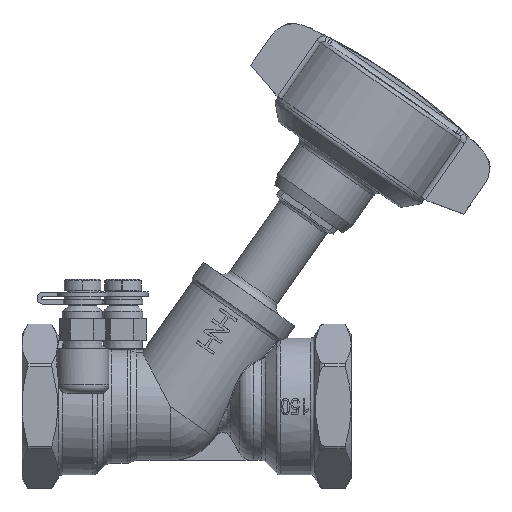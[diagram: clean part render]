
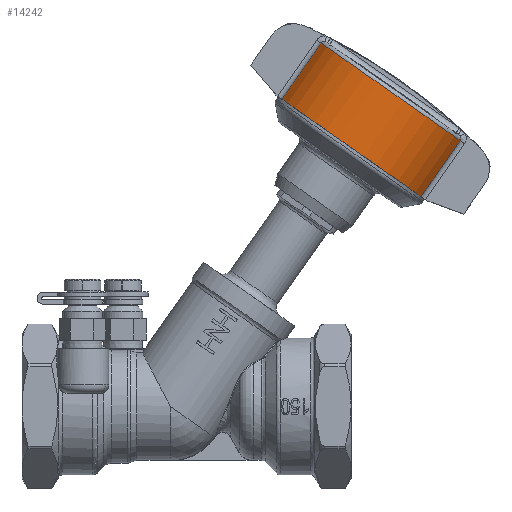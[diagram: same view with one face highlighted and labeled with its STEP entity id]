
A CAD part, top view. The second image highlights one B-rep face of the part: STEP entity #14242.
In plain terms, the highlighted cylindrical face has radius 31.925 mm (diameter 63.85 mm), a partial arc.
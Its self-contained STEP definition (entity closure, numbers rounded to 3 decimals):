
#13101=CARTESIAN_POINT('',(37.834,92.092,12.328));
#13102=VERTEX_POINT('',#13101);
#13110=CARTESIAN_POINT('',(24.24,72.678,12.328));
#13111=VERTEX_POINT('',#13110);
#13112=CARTESIAN_POINT('',(37.834,92.092,12.328));
#13113=DIRECTION('',(-0.574,-0.819,0.));
#13114=VECTOR('',#13113,23.7);
#13115=LINE('',#13112,#13114);
#13116=EDGE_CURVE('',#13102,#13111,#13115,.T.);
#13511=CARTESIAN_POINT('',(-10.412,125.874,12.328));
#13512=VERTEX_POINT('',#13511);
#13542=CARTESIAN_POINT('',(-24.006,106.46,12.328));
#13543=VERTEX_POINT('',#13542);
#13551=CARTESIAN_POINT('',(-24.006,106.46,12.328));
#13552=DIRECTION('',(0.574,0.819,0.0));
#13553=VECTOR('',#13552,23.7);
#13554=LINE('',#13551,#13553);
#13555=EDGE_CURVE('',#13543,#13512,#13554,.T.);
#14215=CARTESIAN_POINT('',(13.711,108.983,0.0));
#14216=DIRECTION('',(-0.574,-0.819,0.0));
#14217=DIRECTION('',(0.819,-0.574,0.0));
#14218=AXIS2_PLACEMENT_3D('',#14215,#14216,#14217);
#14219=CIRCLE('',#14218,31.925);
#14220=EDGE_CURVE('',#13102,#13512,#14219,.T.);
#14225=CARTESIAN_POINT('',(6.914,99.276,0.0));
#14226=DIRECTION('',(-0.574,-0.819,0.0));
#14227=DIRECTION('',(0.819,-0.574,0.0));
#14228=AXIS2_PLACEMENT_3D('',#14225,#14226,#14227);
#14229=CYLINDRICAL_SURFACE('',#14228,31.925);
#14230=ORIENTED_EDGE('',*,*,#13116,.F.);
#14231=ORIENTED_EDGE('',*,*,#14220,.T.);
#14232=ORIENTED_EDGE('',*,*,#13555,.F.);
#14233=CARTESIAN_POINT('',(0.117,89.569,0.0));
#14234=DIRECTION('',(-0.574,-0.819,0.0));
#14235=DIRECTION('',(0.819,-0.574,0.0));
#14236=AXIS2_PLACEMENT_3D('',#14233,#14234,#14235);
#14237=CIRCLE('',#14236,31.925);
#14238=EDGE_CURVE('',#13111,#13543,#14237,.T.);
#14239=ORIENTED_EDGE('',*,*,#14238,.F.);
#14240=EDGE_LOOP('',(#14230,#14231,#14232,#14239));
#14241=FACE_OUTER_BOUND('',#14240,.T.);
#14242=ADVANCED_FACE('',(#14241),#14229,.T.);
